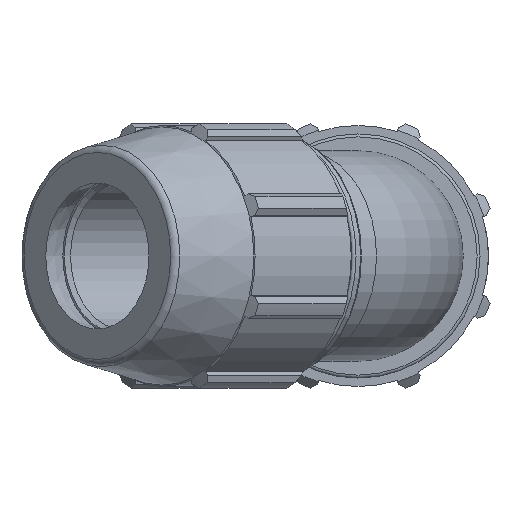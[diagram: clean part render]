
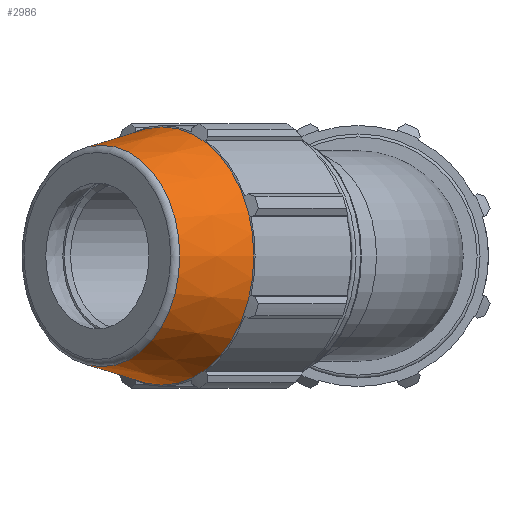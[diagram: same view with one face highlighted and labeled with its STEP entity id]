
A CAD part, left-side view. The second image highlights one B-rep face of the part: STEP entity #2986.
In plain terms, the highlighted conical face has half-angle 12 degrees and reference radius 27.209 mm.
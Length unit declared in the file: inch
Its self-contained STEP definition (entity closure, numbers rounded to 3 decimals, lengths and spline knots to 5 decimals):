
#342=LINE('',#5121,#550);
#550=VECTOR('',#4115,1.07121);
#640=CONICAL_SURFACE('',#3307,1.07121,0.209);
#782=FACE_OUTER_BOUND('',#936,.T.);
#936=EDGE_LOOP('',(#2628,#2629,#2630,#2631,#2632,#2633,#2634));
#1058=CIRCLE('',#3236,1.15916);
#1059=CIRCLE('',#3237,1.15916);
#1095=CIRCLE('',#3303,0.9943);
#1096=CIRCLE('',#3304,0.9943);
#1097=CIRCLE('',#3305,0.9943);
#1340=VERTEX_POINT('',#4945);
#1341=VERTEX_POINT('',#4946);
#1391=VERTEX_POINT('',#5112);
#1392=VERTEX_POINT('',#5114);
#1393=VERTEX_POINT('',#5116);
#1730=EDGE_CURVE('',#1340,#1341,#1058,.T.);
#1731=EDGE_CURVE('',#1341,#1340,#1059,.T.);
#1817=EDGE_CURVE('',#1391,#1392,#1095,.T.);
#1818=EDGE_CURVE('',#1392,#1393,#1096,.T.);
#1819=EDGE_CURVE('',#1393,#1391,#1097,.T.);
#1821=EDGE_CURVE('',#1392,#1341,#342,.T.);
#2628=ORIENTED_EDGE('',*,*,#1819,.F.);
#2629=ORIENTED_EDGE('',*,*,#1818,.F.);
#2630=ORIENTED_EDGE('',*,*,#1821,.T.);
#2631=ORIENTED_EDGE('',*,*,#1731,.T.);
#2632=ORIENTED_EDGE('',*,*,#1730,.T.);
#2633=ORIENTED_EDGE('',*,*,#1821,.F.);
#2634=ORIENTED_EDGE('',*,*,#1817,.F.);
#2986=ADVANCED_FACE('',(#782),#640,.T.);
#3236=AXIS2_PLACEMENT_3D('',#4947,#3921,#3922);
#3237=AXIS2_PLACEMENT_3D('',#4948,#3923,#3924);
#3303=AXIS2_PLACEMENT_3D('',#5115,#4105,#4106);
#3304=AXIS2_PLACEMENT_3D('',#5117,#4107,#4108);
#3305=AXIS2_PLACEMENT_3D('',#5118,#4109,#4110);
#3307=AXIS2_PLACEMENT_3D('',#5120,#4113,#4114);
#3921=DIRECTION('center_axis',(-0.707,0.707,0.));
#3922=DIRECTION('ref_axis',(0.,0.,-1.));
#3923=DIRECTION('center_axis',(-0.707,0.707,0.));
#3924=DIRECTION('ref_axis',(0.,0.,-1.));
#4105=DIRECTION('center_axis',(-0.707,0.707,0.));
#4106=DIRECTION('ref_axis',(0.707,0.707,0.));
#4107=DIRECTION('center_axis',(-0.707,0.707,0.));
#4108=DIRECTION('ref_axis',(0.707,0.707,0.));
#4109=DIRECTION('center_axis',(-0.707,0.707,0.));
#4110=DIRECTION('ref_axis',(0.707,0.707,0.));
#4113=DIRECTION('center_axis',(0.707,-0.707,0.));
#4114=DIRECTION('ref_axis',(-0.707,-0.707,0.));
#4115=DIRECTION('',(0.839,-0.545,0.));
#4945=CARTESIAN_POINT('',(-2.57504,0.93574,0.));
#4946=CARTESIAN_POINT('',(-0.93574,2.57504,0.));
#4947=CARTESIAN_POINT('Origin',(-1.75539,1.75539,0.));
#4948=CARTESIAN_POINT('Origin',(-1.75539,1.75539,0.));
#5112=CARTESIAN_POINT('',(-2.30381,2.30381,0.9943));
#5114=CARTESIAN_POINT('',(-1.60073,3.00689,0.));
#5115=CARTESIAN_POINT('Origin',(-2.30381,2.30381,0.));
#5116=CARTESIAN_POINT('',(-3.00689,1.60073,0.));
#5117=CARTESIAN_POINT('Origin',(-2.30381,2.30381,0.));
#5118=CARTESIAN_POINT('Origin',(-2.30381,2.30381,0.));
#5120=CARTESIAN_POINT('Origin',(-2.04796,2.04796,0.));
#5121=CARTESIAN_POINT('',(-1.2905,2.80542,0.));
